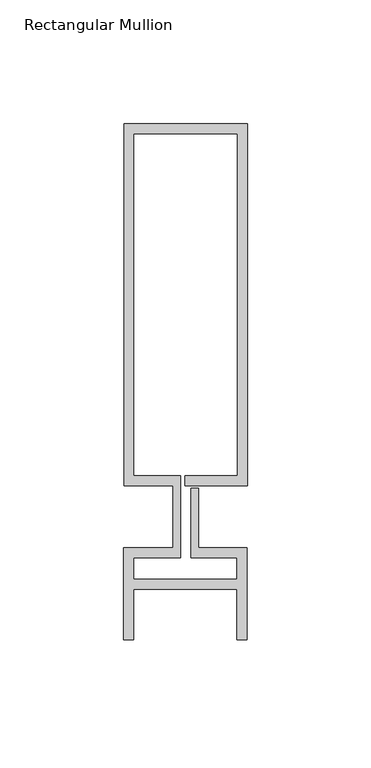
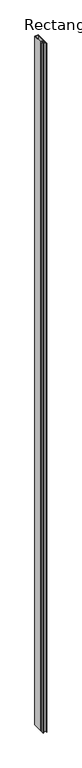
"""IFC4 building model written with IfcOpenShell, lengths in millimetres: member geometry, Rectangular Mullion : Reynaers_CW-50_Mullion-Transom_Vertical_146.5mm_Facecap-03."""

from ifc_helpers import new_model, si_unit, frame, origin, place, context, project, spatial, polyline, outline, extrude, source, transform, mapped, element, save


def rectangular_mullion_f6d6b2d7(model_context):
    return source(origin(), model_context, "Body", "SweptSolid", [
        extrude(outline(polyline([(-24.8004059, 159.0), (25.1995941, 159.0), (25.1995941, 12.5), (0.0, 12.5), (0.0, 16.5), (21.1995941, 16.5), (21.1995941, 155.0), (-20.8004059, 155.0), (-20.8004059, 16.5), (-1.9004059, 16.5), (-1.9004059, -16.5), (-20.994845, -16.5), (-20.994845, -25.3268728), (20.994845, -25.3268728), (20.994845, -16.5), (2.2995941, -16.5), (2.2995941, 11.5), (5.2995941, 11.5), (5.2995941, -12.5), (24.994845, -12.5), (24.994845, -49.8), (20.994845, -49.8), (20.994845, -29.3268728), (-20.994845, -29.3268728), (-20.994845, -49.8), (-24.994845, -49.8), (-24.994845, -12.5), (-4.9004059, -12.5), (-4.9004059, 12.5), (-24.8004059, 12.5), (-24.8004059, 159.0)])), frame((0.0, 0.0, -10400.0), z_axis=(0.0, 0.0, 1.0), x_axis=(1.0, 0.0, 0.0)), (0.0, 0.0, 1.0), 10400.0),
    ])


if __name__ == "__main__":
    model = new_model("IFC4")
    model_context = context("Model", 3, world=origin())
    ifc_project = project(units=[si_unit("LENGTHUNIT", "METRE", prefix="MILLI")], contexts=[model_context])
    site = spatial("IfcSite", under=ifc_project)
    building = spatial("IfcBuilding", under=site)
    placement = place(None, origin())
    rectangular_mullion_shape = rectangular_mullion_f6d6b2d7(model_context)
    element("IfcMember", 1, ObjectType="Rectangular Mullion : Reynaers_CW-50_Mullion-Transom_Vertical_146.5mm_Facecap-03", at=placement, inside=building, context=model_context, shape_type="MappedRepresentation", body=[
        mapped(rectangular_mullion_shape, transform((0.0, 0.0, 0.0), x_axis=(1.0, 0.0, 0.0), y_axis=(0.0, 1.0, 0.0), z_axis=(0.0, 0.0, 1.0))),
    ])
    save(model, "model.ifc")
